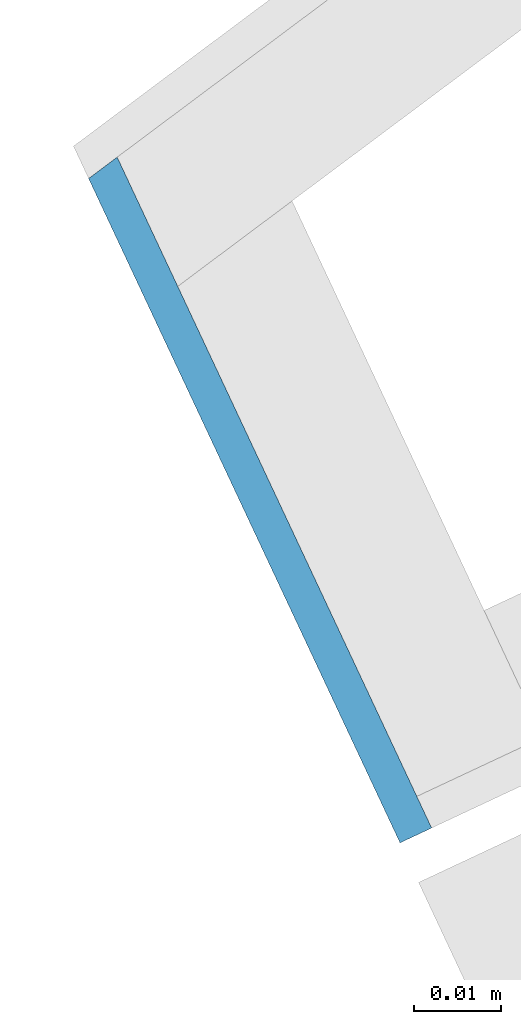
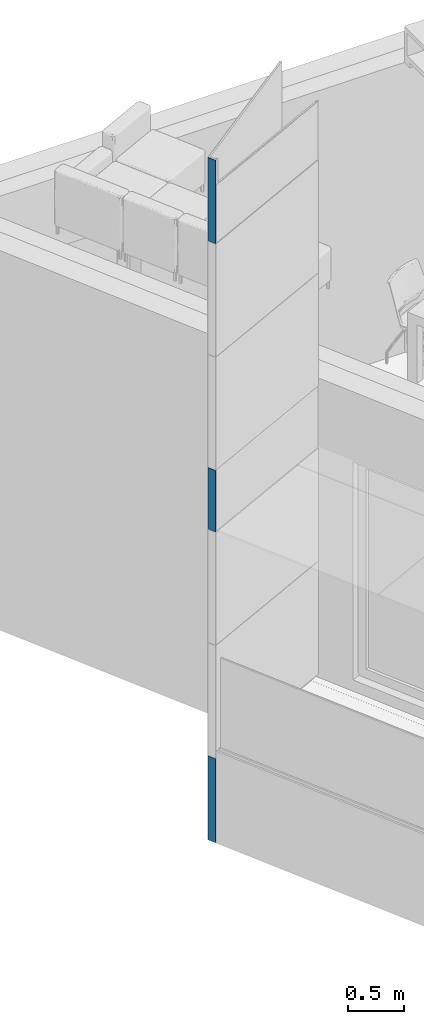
# One storey, part 28 of 125: 3 building element parts, 1 element without a shape of its own.
"""IFC2X3 building model written with IfcOpenShell, lengths in millimetres."""

from ifc_helpers import new_model, entity, si_unit, converted_unit, direction, frame, origin, place, context, subcontext, project, spatial, polyline, outline, extrude, material, type_object, element, aggregate, save


model = new_model("IFC2X3")

# Units and contexts
model_context = context("Model", 3, precision=0.01, world=origin(), true_north=direction((6.123233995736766e-17, 1.0)))
plan_context = context("Plan", 3, precision=0.01, world=origin(), true_north=direction((6.123233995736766e-17, 1.0)))
body_context = subcontext(model_context, "Body", "Model", "MODEL_VIEW")
ifc_project = project(units=[si_unit("LENGTHUNIT", "METRE", prefix="MILLI"), converted_unit("PLANEANGLEUNIT", "DEGREE", entity("IfcPlaneAngleMeasure", 0.017453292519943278), si_unit("PLANEANGLEUNIT", "RADIAN"), dimensions=[0, 0, 0, 0, 0, 0, 0]), si_unit("AREAUNIT", "SQUARE_METRE")], contexts=[model_context, plan_context])

# Site, building, storey
site_placement = place(None, origin())
site = spatial("IfcSite", under=ifc_project, at=site_placement, Name="Default", CompositionType="ELEMENT")
building_placement = place(site_placement, origin())
building = spatial("IfcBuilding", under=site, at=building_placement, CompositionType="ELEMENT")
storey_placement = place(building_placement, frame((0.0, 0.0, 3125.0)))
storey = spatial("IfcBuildingStorey", under=building, at=storey_placement, Name="2K", CompositionType="ELEMENT", Elevation=3125.0)

# Wall, building element parts
wall_type = type_object("IfcWallType", Name="Basic Wall:VS-komposiit", PredefinedType="STANDARD")
wall_placement = place(storey_placement, frame((-5275.291839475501, 10873.092340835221, -1010.0), z_axis=(0.0, 0.0, 1.0), x_axis=(0.4244316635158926, -0.9054599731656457, 0.0)))
wall = element("IfcWall", 1, at=wall_placement, inside=storey, type_object=wall_type, Name="Basic Wall:VS-komposiit", ObjectType="Basic Wall:VS-komposiit")
ifc_material = material(Name="_K. Välisviimistlus. Alumiinium-komposiitplaat")
building_element_part_1_placement = place(wall_placement, origin())
building_element_part_1 = element("IfcBuildingElementPart", 2, at=building_element_part_1_placement, material=ifc_material, Name="Part", context=body_context, shape_type="SweptSolid", body=[
    extrude(outline(polyline([(-42.2001351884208, -2.0), (42.612601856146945, -2.0), (41.7876685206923, 2.0), (-42.2001351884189, 2.0), (-42.2001351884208, -2.0)])), frame((29.57562071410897, -8.0, 0.0), z_axis=(0.0, 0.0, 1.0), x_axis=(-1.0, 0.0, 0.0)), (0.0, 0.0, 1.0), 922.4999999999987),
])
building_element_part_2_placement = place(wall_placement, origin())
building_element_part_2 = element("IfcBuildingElementPart", 3, at=building_element_part_2_placement, material=ifc_material, Name="Part", context=body_context, shape_type="SweptSolid", body=[
    extrude(outline(polyline([(-42.2001351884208, -2.0), (42.612601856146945, -2.0), (41.7876685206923, 2.0), (-42.2001351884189, 2.0), (-42.2001351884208, -2.0)])), frame((29.57562071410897, -8.0, 6587.500000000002), z_axis=(0.0, 0.0, 1.0), x_axis=(-1.0, 0.0, 0.0)), (0.0, 0.0, 1.0), 917.499999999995),
])
building_element_part_3_placement = place(wall_placement, origin())
building_element_part_3 = element("IfcBuildingElementPart", 4, at=building_element_part_3_placement, material=ifc_material, Name="Part", context=body_context, shape_type="SweptSolid", body=[
    extrude(outline(polyline([(-42.2001351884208, -2.0), (42.612601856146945, -2.0), (41.7876685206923, 2.0), (-42.2001351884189, 2.0), (-42.2001351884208, -2.0)])), frame((29.57562071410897, -8.0, 3417.4999999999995), z_axis=(0.0, 0.0, 1.0), x_axis=(-1.0, 0.0, 0.0)), (0.0, 0.0, 1.0), 675.0000000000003),
])
aggregate(wall, [building_element_part_1, building_element_part_2, building_element_part_3])

save(model, "model.ifc")
